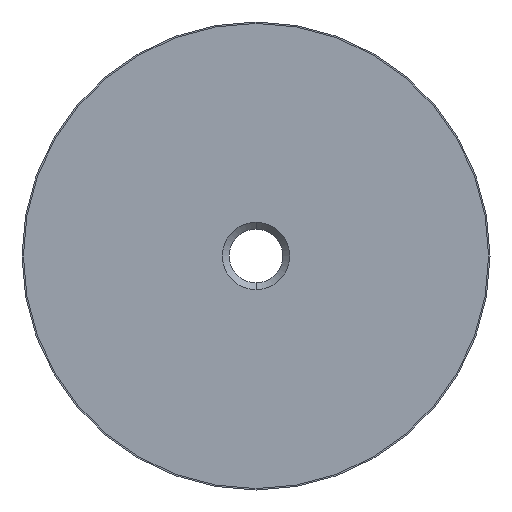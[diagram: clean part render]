
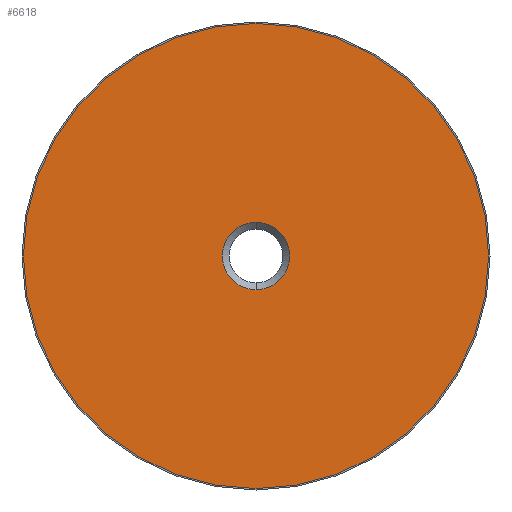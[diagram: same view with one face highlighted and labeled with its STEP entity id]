
A CAD part, front view. The second image highlights one B-rep face of the part: STEP entity #6618.
In plain terms, the highlighted planar face has unit normal (0, -1, 0).
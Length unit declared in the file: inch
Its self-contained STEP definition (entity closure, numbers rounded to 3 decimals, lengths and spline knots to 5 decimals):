
#310 = CARTESIAN_POINT ( 'NONE',  ( 0., 0., 0. ) ) ;
#1051 = CARTESIAN_POINT ( 'NONE',  ( 0., 0., -0.65297 ) ) ;
#2075 = DIRECTION ( 'NONE',  ( 0., 1., 0. ) ) ;
#2736 = FACE_OUTER_BOUND ( 'NONE', #23990, .T. ) ;
#3068 = DIRECTION ( 'NONE',  ( 0., -1., 0. ) ) ;
#3843 = DIRECTION ( 'NONE',  ( 0., 0., -1. ) ) ;
#4316 = AXIS2_PLACEMENT_3D ( 'NONE', #12649, #9882, #23293 ) ;
#4518 = ORIENTED_EDGE ( 'NONE', *, *, #5634, .T. ) ;
#4620 = EDGE_CURVE ( 'NONE', #13608, #10219, #13487, .T. ) ;
#4995 = AXIS2_PLACEMENT_3D ( 'NONE', #7592, #2075, #21411 ) ;
#5496 = CIRCLE ( 'NONE', #18304, 0.65297 ) ;
#5634 = EDGE_CURVE ( 'NONE', #18457, #24197, #19711, .T. ) ;
#5707 = EDGE_LOOP ( 'NONE', ( #11182, #19652 ) ) ;
#6618 = ADVANCED_FACE ( 'NONE', ( #9036, #2736 ), #22858, .F. ) ;
#7592 = CARTESIAN_POINT ( 'NONE',  ( 0., 0., 0. ) ) ;
#9036 = FACE_BOUND ( 'NONE', #5707, .T. ) ;
#9882 = DIRECTION ( 'NONE',  ( 0., 1., 0. ) ) ;
#10219 = VERTEX_POINT ( 'NONE', #21101 ) ;
#11005 = CARTESIAN_POINT ( 'NONE',  ( 0., 0., -0.09469 ) ) ;
#11182 = ORIENTED_EDGE ( 'NONE', *, *, #4620, .T. ) ;
#11921 = CIRCLE ( 'NONE', #4995, 0.09469 ) ;
#12649 = CARTESIAN_POINT ( 'NONE',  ( 0., 0., 0. ) ) ;
#13386 = DIRECTION ( 'NONE',  ( 0., 1., 0. ) ) ;
#13487 = CIRCLE ( 'NONE', #4316, 0.09469 ) ;
#13608 = VERTEX_POINT ( 'NONE', #11005 ) ;
#14460 = DIRECTION ( 'NONE',  ( 0., -1., 0. ) ) ;
#15989 = EDGE_CURVE ( 'NONE', #10219, #13608, #11921, .T. ) ;
#17117 = AXIS2_PLACEMENT_3D ( 'NONE', #310, #3068, #21218 ) ;
#17325 = CARTESIAN_POINT ( 'NONE',  ( -0.65297, 0., 0. ) ) ;
#18304 = AXIS2_PLACEMENT_3D ( 'NONE', #18802, #14460, #3843 ) ;
#18457 = VERTEX_POINT ( 'NONE', #1051 ) ;
#18802 = CARTESIAN_POINT ( 'NONE',  ( 0., 0., 0. ) ) ;
#18875 = CARTESIAN_POINT ( 'NONE',  ( 0., 0., 0.65297 ) ) ;
#19652 = ORIENTED_EDGE ( 'NONE', *, *, #15989, .T. ) ;
#19700 = DIRECTION ( 'NONE',  ( 0., 0., 1. ) ) ;
#19711 = CIRCLE ( 'NONE', #17117, 0.65297 ) ;
#20287 = AXIS2_PLACEMENT_3D ( 'NONE', #17325, #13386, #19700 ) ;
#20836 = ORIENTED_EDGE ( 'NONE', *, *, #22089, .T. ) ;
#21101 = CARTESIAN_POINT ( 'NONE',  ( 0., 0., 0.09469 ) ) ;
#21218 = DIRECTION ( 'NONE',  ( 0., 0., -1. ) ) ;
#21411 = DIRECTION ( 'NONE',  ( 0., 0., 1. ) ) ;
#22089 = EDGE_CURVE ( 'NONE', #24197, #18457, #5496, .T. ) ;
#22858 = PLANE ( 'NONE',  #20287 ) ;
#23293 = DIRECTION ( 'NONE',  ( 0., 0., 1. ) ) ;
#23990 = EDGE_LOOP ( 'NONE', ( #4518, #20836 ) ) ;
#24197 = VERTEX_POINT ( 'NONE', #18875 ) ;
